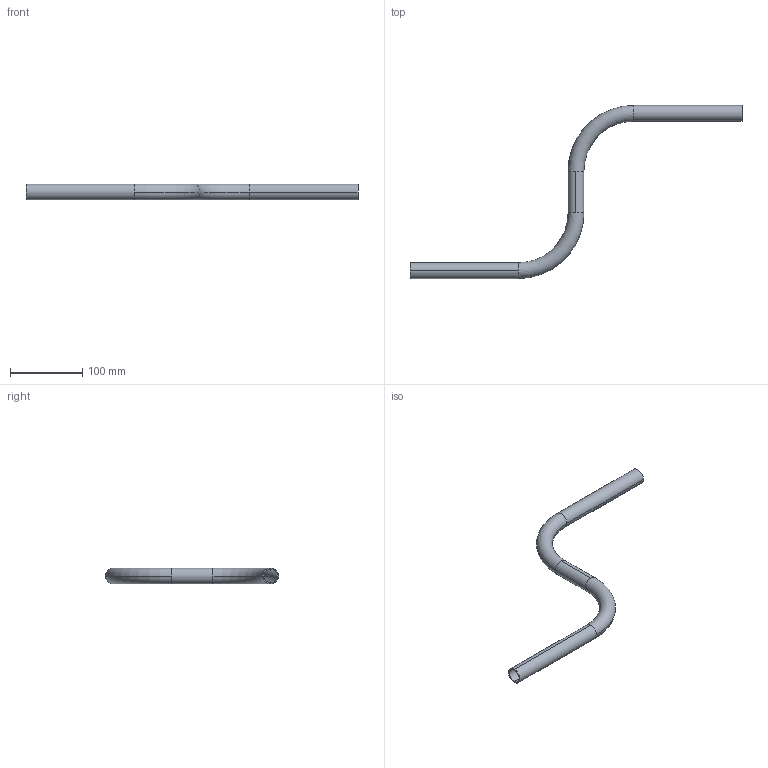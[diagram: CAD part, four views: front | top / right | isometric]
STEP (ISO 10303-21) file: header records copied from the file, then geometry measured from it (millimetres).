
FILE_DESCRIPTION (( 'STEP AP203' ), '1' );
FILE_NAME ('059.022.104.STEP', '2016-10-19T14:16:13', ( 'Utente' ), ( '' ), 'SwSTEP 2.0', 'SolidWorks 2016', '' );
FILE_SCHEMA (( 'CONFIG_CONTROL_DESIGN' ));
Length unit declared in the file: millimetre
Products named in the file (1): 059.022.104
Bounding box: 460 x 240 x 22 mm (x, y, z)
Volume: 58863.4 mm3; surface area: 78677.8 mm2
Topology: 1 solids, 1 shells, 22 faces, 56 edges, 36 vertices
Faces by surface type: cylinder 12, torus 8, plane 2
Entity records: 773 total; most frequent: DIRECTION 146, CARTESIAN_POINT 115, ORIENTED_EDGE 112, AXIS2_PLACEMENT_3D 67, EDGE_CURVE 56, CIRCLE 44, VERTEX_POINT 36, EDGE_LOOP 24
